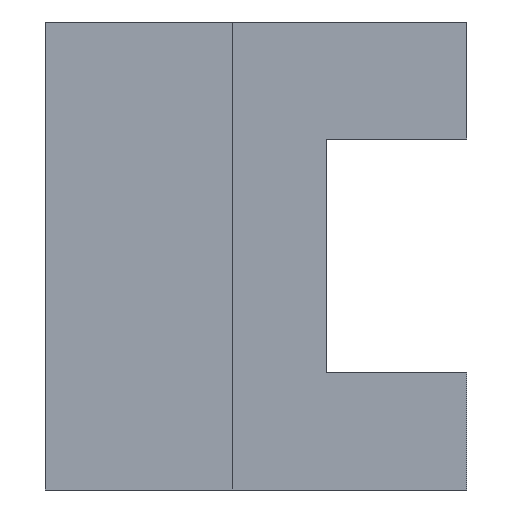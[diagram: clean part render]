
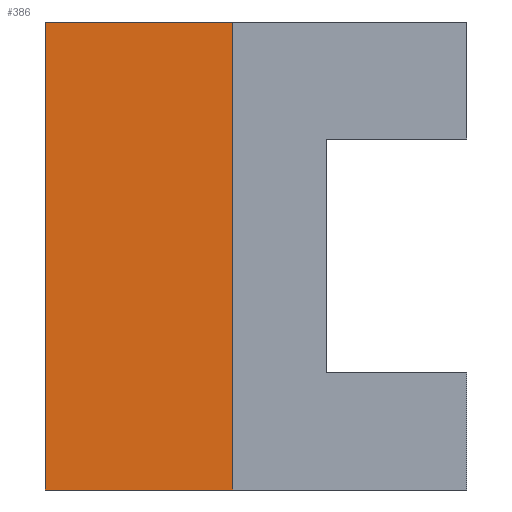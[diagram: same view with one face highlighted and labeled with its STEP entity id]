
A CAD part, front view. The second image highlights one B-rep face of the part: STEP entity #386.
In plain terms, the highlighted planar face has unit normal (0, -1, 0).
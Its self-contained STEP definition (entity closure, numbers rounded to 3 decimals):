
#28=PLANE('',#416);
#48=FACE_OUTER_BOUND('',#71,.T.);
#71=EDGE_LOOP('',(#320,#321,#322,#323));
#98=LINE('',#554,#142);
#113=LINE('',#584,#157);
#120=LINE('',#596,#164);
#123=LINE('',#611,#167);
#142=VECTOR('',#448,4.);
#157=VECTOR('',#469,4.);
#164=VECTOR('',#480,10.);
#167=VECTOR('',#499,10.);
#189=VERTEX_POINT('',#551);
#190=VERTEX_POINT('',#553);
#201=VERTEX_POINT('',#581);
#202=VERTEX_POINT('',#583);
#226=EDGE_CURVE('',#189,#190,#98,.T.);
#241=EDGE_CURVE('',#202,#201,#113,.T.);
#248=EDGE_CURVE('',#189,#202,#120,.T.);
#255=EDGE_CURVE('',#190,#201,#123,.T.);
#320=ORIENTED_EDGE('',*,*,#248,.T.);
#321=ORIENTED_EDGE('',*,*,#241,.T.);
#322=ORIENTED_EDGE('',*,*,#255,.F.);
#323=ORIENTED_EDGE('',*,*,#226,.F.);
#386=ADVANCED_FACE('',(#48),#28,.T.);
#416=AXIS2_PLACEMENT_3D('',#610,#497,#498);
#448=DIRECTION('',(-1.,0.,0.));
#469=DIRECTION('',(-1.,0.,0.));
#480=DIRECTION('',(0.,0.,1.));
#497=DIRECTION('center_axis',(0.,-1.,0.));
#498=DIRECTION('ref_axis',(0.,0.,1.));
#499=DIRECTION('',(0.,0.,1.));
#551=CARTESIAN_POINT('',(0.,-9.,-5.));
#553=CARTESIAN_POINT('',(-4.,-9.,-5.));
#554=CARTESIAN_POINT('',(0.,-9.,-5.));
#581=CARTESIAN_POINT('',(-4.,-9.,5.));
#583=CARTESIAN_POINT('',(0.,-9.,5.));
#584=CARTESIAN_POINT('',(0.,-9.,5.));
#596=CARTESIAN_POINT('',(0.,-9.,-5.));
#610=CARTESIAN_POINT('Origin',(0.,-9.,-5.));
#611=CARTESIAN_POINT('',(-4.,-9.,-5.));
